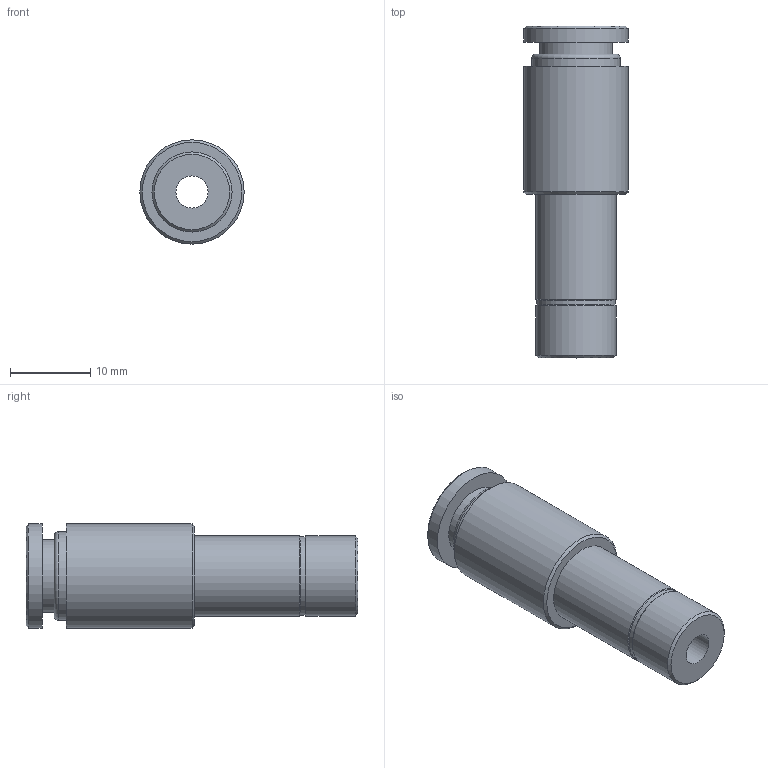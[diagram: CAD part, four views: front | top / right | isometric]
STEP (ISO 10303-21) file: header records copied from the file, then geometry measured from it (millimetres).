
FILE_DESCRIPTION(/* description */ (''),/* implementation_level */ '2;1');
FILE_NAME(/* name */ 'LXH66 1006 00.stp',/* time_stamp */ '2026-04-19T15:15:06+02:00',/* author */ ('freju'),/* organization */ (''),/* preprocessor_version */ 'ST-DEVELOPER v20.1',/* originating_system */ 'Autodesk Inventor 2026',/* authorisation */ '');
FILE_SCHEMA (('AUTOMOTIVE_DESIGN { 1 0 10303 214 3 1 1 }'));
Length unit declared in the file: millimetre
Products named in the file (1): LXH66 1006 00
Bounding box: 13 x 41.4 x 13 mm (x, y, z)
Volume: 3432.9 mm3; surface area: 2451.2 mm2
Topology: 1 solids, 1 shells, 22 faces, 45 edges, 30 vertices
Faces by surface type: cylinder 9, plane 7, torus 3, cone 3
Full cylindrical faces by diameter (mm): 4 x1, 6 x1, 9 x1, 9.8 x1, 10 x2, 11 x1, 13 x2
Entity records: 649 total; most frequent: DIRECTION 124, CARTESIAN_POINT 98, ORIENTED_EDGE 90, AXIS2_PLACEMENT_3D 56, EDGE_CURVE 45, CIRCLE 33, VERTEX_POINT 30, EDGE_LOOP 29
